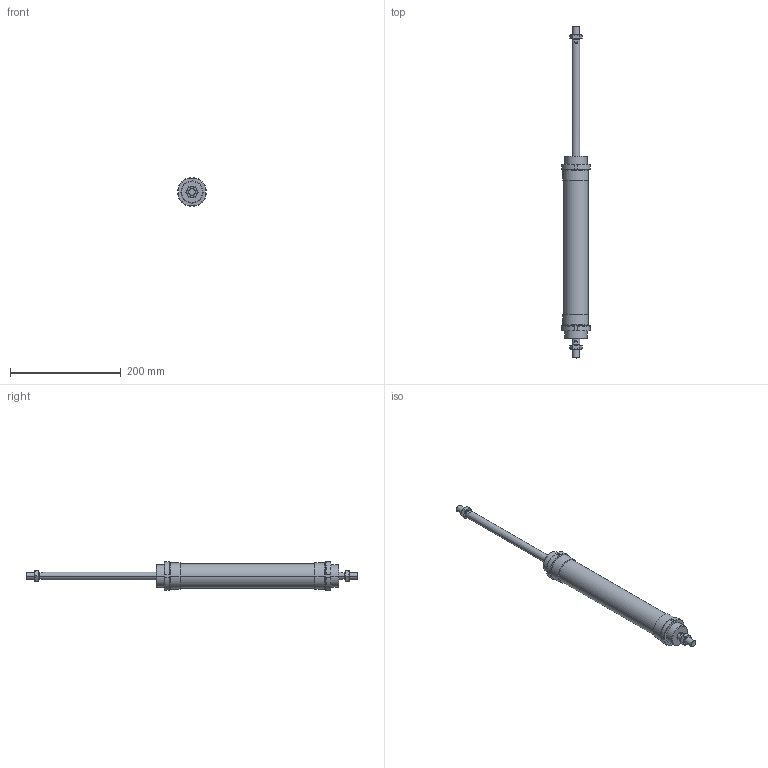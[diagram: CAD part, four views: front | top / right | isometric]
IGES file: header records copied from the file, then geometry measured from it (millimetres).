
Global section: file name: No Iges File Name specified; native system: AutoDesk Inventor R6.0; preprocessor: AutoDesk Inventor Iges Exporter R6.0; author: No Author specified; organization: No Organization specified; date: 20030403.072840; units: millimetre
Bounding box: 51.76 x 599 x 51.76 mm (x, y, z)
Volume: 552448.8 mm3; surface area: 101552.9 mm2
Topology: 6 solids, 6 shells, 182 faces, 424 edges, 264 vertices
Faces by surface type: plane 66, cone 52, bspline 30, cylinder 28, revolution 6
